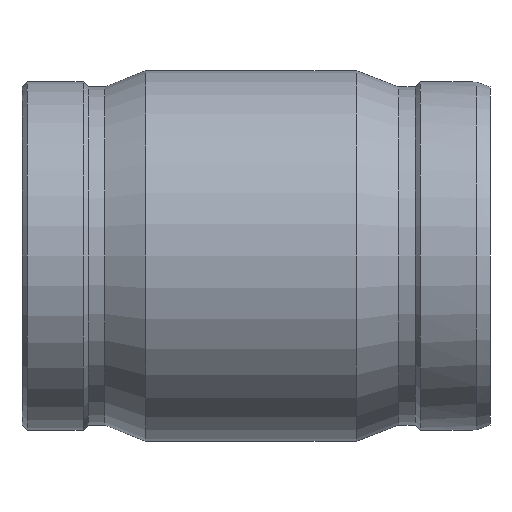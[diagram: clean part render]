
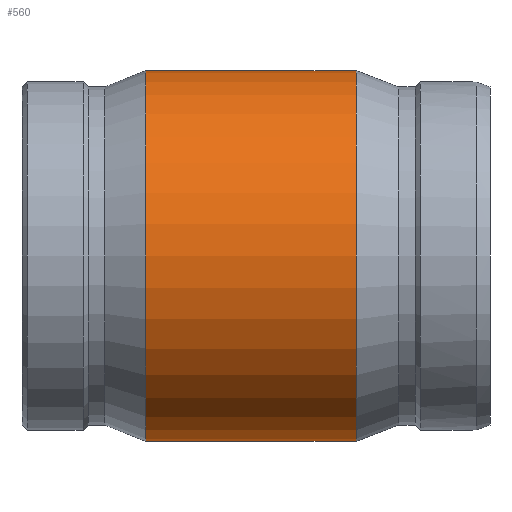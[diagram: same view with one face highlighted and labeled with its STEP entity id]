
A CAD part, front view. The second image highlights one B-rep face of the part: STEP entity #560.
In plain terms, the highlighted cylindrical face has radius 59.055 mm (diameter 118.11 mm), a full revolution.
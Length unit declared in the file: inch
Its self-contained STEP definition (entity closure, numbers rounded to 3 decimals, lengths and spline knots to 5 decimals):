
#59=LINE('',#1099,#81);
#81=VECTOR('',#811,2.325);
#96=CYLINDRICAL_SURFACE('',#648,2.325);
#124=FACE_OUTER_BOUND('',#164,.T.);
#164=EDGE_LOOP('',(#464,#465,#466,#467,#468,#469));
#210=CIRCLE('',#646,2.325);
#211=CIRCLE('',#647,2.325);
#212=CIRCLE('',#649,2.325);
#213=CIRCLE('',#650,2.325);
#266=VERTEX_POINT('',#1089);
#267=VERTEX_POINT('',#1090);
#268=VERTEX_POINT('',#1095);
#269=VERTEX_POINT('',#1096);
#338=EDGE_CURVE('',#266,#267,#210,.T.);
#339=EDGE_CURVE('',#267,#266,#211,.T.);
#341=EDGE_CURVE('',#268,#269,#212,.T.);
#342=EDGE_CURVE('',#269,#268,#213,.T.);
#343=EDGE_CURVE('',#269,#267,#59,.T.);
#464=ORIENTED_EDGE('',*,*,#341,.F.);
#465=ORIENTED_EDGE('',*,*,#342,.F.);
#466=ORIENTED_EDGE('',*,*,#343,.T.);
#467=ORIENTED_EDGE('',*,*,#339,.T.);
#468=ORIENTED_EDGE('',*,*,#338,.T.);
#469=ORIENTED_EDGE('',*,*,#343,.F.);
#560=ADVANCED_FACE('',(#124),#96,.T.);
#646=AXIS2_PLACEMENT_3D('',#1091,#800,#801);
#647=AXIS2_PLACEMENT_3D('',#1092,#802,#803);
#648=AXIS2_PLACEMENT_3D('',#1094,#805,#806);
#649=AXIS2_PLACEMENT_3D('',#1097,#807,#808);
#650=AXIS2_PLACEMENT_3D('',#1098,#809,#810);
#800=DIRECTION('center_axis',(1.,0.,0.));
#801=DIRECTION('ref_axis',(0.,0.,-1.));
#802=DIRECTION('center_axis',(1.,0.,0.));
#803=DIRECTION('ref_axis',(0.,0.,-1.));
#805=DIRECTION('center_axis',(1.,0.,0.));
#806=DIRECTION('ref_axis',(0.,1.,0.));
#807=DIRECTION('center_axis',(1.,0.,0.));
#808=DIRECTION('ref_axis',(0.,0.,-1.));
#809=DIRECTION('center_axis',(1.,0.,0.));
#810=DIRECTION('ref_axis',(0.,0.,-1.));
#811=DIRECTION('',(-1.,0.,0.));
#1089=CARTESIAN_POINT('',(-1.38575,2.325,0.));
#1090=CARTESIAN_POINT('',(-1.38575,-2.325,0.));
#1091=CARTESIAN_POINT('Origin',(-1.38575,0.,0.));
#1092=CARTESIAN_POINT('Origin',(-1.38575,0.,0.));
#1094=CARTESIAN_POINT('Origin',(-0.065,0.,0.));
#1095=CARTESIAN_POINT('',(1.25575,2.325,0.));
#1096=CARTESIAN_POINT('',(1.25575,-2.325,0.));
#1097=CARTESIAN_POINT('Origin',(1.25575,0.,0.));
#1098=CARTESIAN_POINT('Origin',(1.25575,0.,0.));
#1099=CARTESIAN_POINT('',(-0.065,-2.325,0.));
